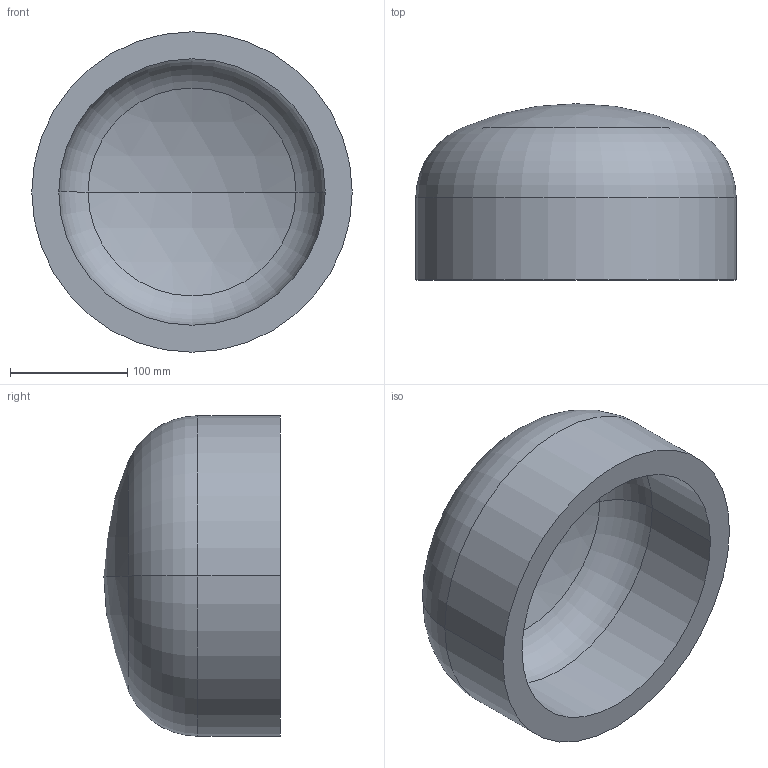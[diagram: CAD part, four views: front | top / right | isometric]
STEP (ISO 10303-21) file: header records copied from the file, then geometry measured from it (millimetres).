
FILE_DESCRIPTION (( 'STEP AP203' ), '1' );
FILE_NAME ('DIN 28013 Korbbogenform_-_Boden DIN 28013 - 273 x 70 - I - s=23.step', '2016-07-01T07:43:28', ( '' ), ( '' ), 'SwSTEP 2.0', 'SolidWorks 2013', '' );
FILE_SCHEMA (( 'CONFIG_CONTROL_DESIGN' ));
Length unit declared in the file: millimetre
Products named in the file (1): DIN 28013 Korbbogenform_-_Boden DIN 28013 - 273 x 70 - I - s=23
Bounding box: 273 x 150.18 x 273 mm (x, y, z)
Volume: 2942302 mm3; surface area: 275024.4 mm2
Topology: 1 solids, 1 shells, 13 faces, 24 edges, 14 vertices
Faces by surface type: torus 4, cylinder 4, sphere 4, plane 1
Entity records: 407 total; most frequent: DIRECTION 72, CARTESIAN_POINT 52, ORIENTED_EDGE 48, AXIS2_PLACEMENT_3D 34, EDGE_CURVE 24, CIRCLE 20, EDGE_LOOP 14, VERTEX_POINT 14
